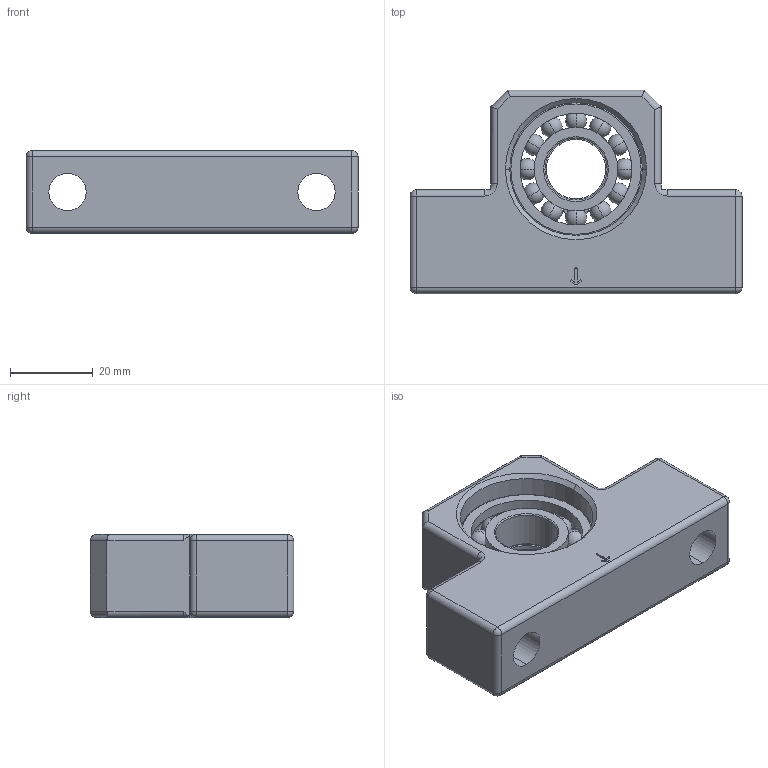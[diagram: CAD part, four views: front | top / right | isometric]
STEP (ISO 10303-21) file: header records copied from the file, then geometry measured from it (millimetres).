
FILE_DESCRIPTION (( 'STEP AP203' ), '1' );
FILE_NAME ('GEF15.STEP', '2013-10-26T02:03:25', ( 'user' ), ( '' ), 'SwSTEP 2.0', 'SolidWorks 2013', '' );
FILE_SCHEMA (( 'CONFIG_CONTROL_DESIGN' ));
Length unit declared in the file: millimetre
Products named in the file (1): GEF15
Bounding box: 80 x 49 x 20 mm (x, y, z)
Surface area: 15489 mm2 (no closed solid volume)
Topology: 0 solids, 7 shells, 212 faces, 1155 edges, 848 vertices
Faces by surface type: plane 92, cylinder 59, sphere 32, torus 20, bspline 5, cone 4
Entity records: 12076 total; most frequent: CARTESIAN_POINT 3933, ORIENTED_EDGE 1640, DIRECTION 1547, EDGE_CURVE 1075, VERTEX_POINT 800, AXIS2_PLACEMENT_3D 516, VECTOR 515, LINE 515
